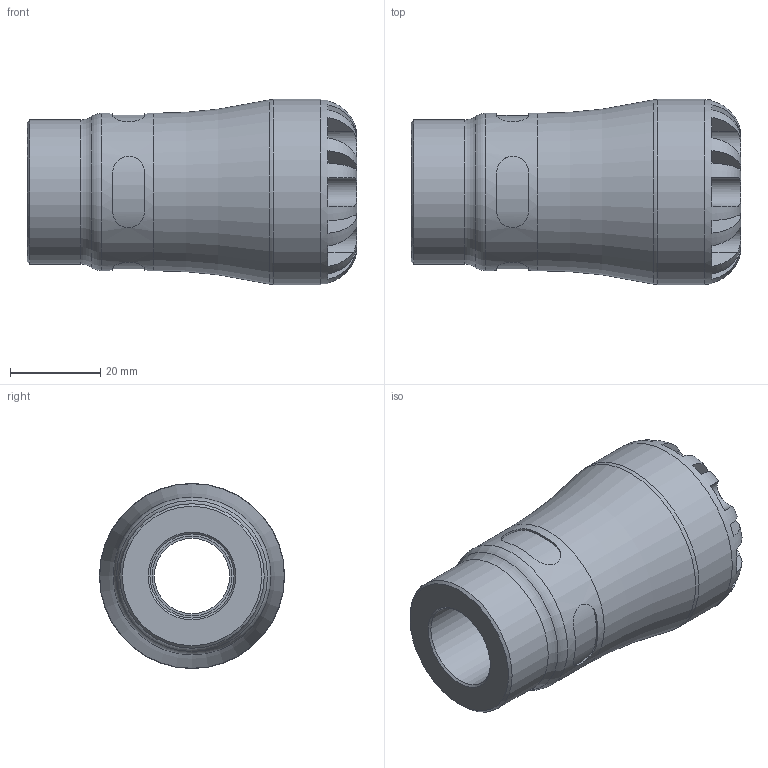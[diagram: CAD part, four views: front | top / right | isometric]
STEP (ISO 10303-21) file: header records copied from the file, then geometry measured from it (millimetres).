
FILE_DESCRIPTION(/* description */ ('PLASSON FEMALE INTEGRAL BRASS THREAD 20X1/2" SERIES 1'),/* implementation_level */ '2;1');
FILE_NAME(/* name */ 'C:\Dropbox\KIMPROJECTS-Inventor\99-16-3568-Processing\1073\107300020005_197300020005.ipt.stp',/* time_stamp */ '2017-01-22T11:35:18+02:00',/* author */ ('KIM'),/* organization */ (''),/* preprocessor_version */ 'ST-DEVELOPER v15.6',/* originating_system */ 'Autodesk Inventor 2015',/* authorisation */ '');
FILE_SCHEMA (('AUTOMOTIVE_DESIGN { 1 0 10303 214 3 1 1 }'));
Length unit declared in the file: millimetre
Products named in the file (1): 107300020005_197300020005
Bounding box: 73 x 41 x 41 mm (x, y, z)
Volume: 52190.2 mm3; surface area: 15268.7 mm2
Topology: 1 solids, 1 shells, 104 faces, 255 edges, 159 vertices
Faces by surface type: plane 61, cylinder 35, torus 5, cone 3
Full cylindrical faces by diameter (mm): 16.667 x1, 17.699 x1, 18.631 x1, 20 x1, 31.98 x1, 34.85 x1, 41 x1
Entity records: 3740 total; most frequent: CARTESIAN_POINT 1405, DIRECTION 472, ORIENTED_EDGE 470, EDGE_CURVE 235, AXIS2_PLACEMENT_3D 196, VERTEX_POINT 155, EDGE_LOOP 128, FACE_OUTER_BOUND 104
